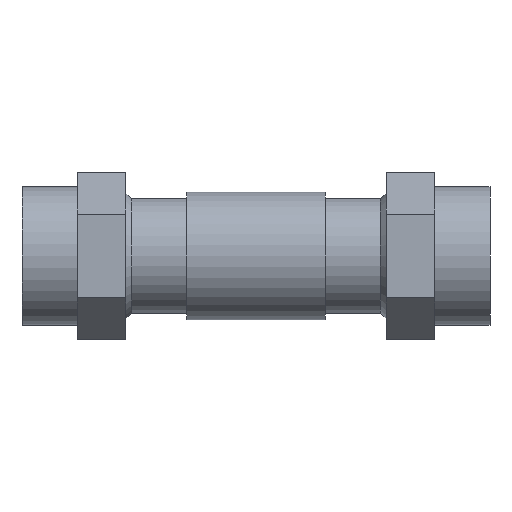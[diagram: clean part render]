
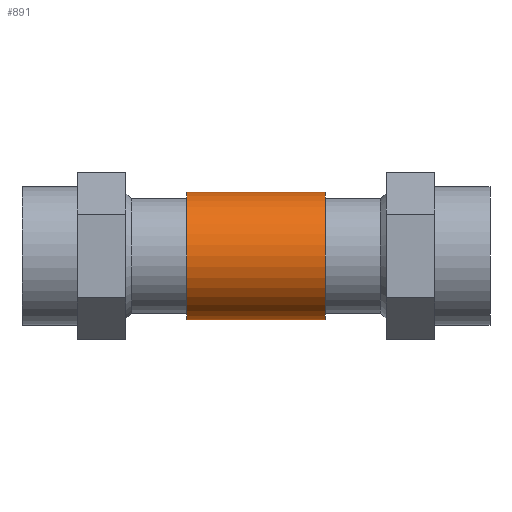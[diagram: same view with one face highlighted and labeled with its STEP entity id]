
A CAD part, front view. The second image highlights one B-rep face of the part: STEP entity #891.
In plain terms, the highlighted cylindrical face has radius 23.47 mm (diameter 46.939 mm), a full revolution.
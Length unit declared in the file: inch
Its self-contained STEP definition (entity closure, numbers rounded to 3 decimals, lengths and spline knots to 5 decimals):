
#48=B_SPLINE_CURVE_WITH_KNOTS('',3,(#1375,#1376,#1377,#1378,#1379,#1380,
#1381,#1382,#1383,#1384,#1385,#1386,#1387,#1388,#1389,#1390,#1391,#1392,
#1393,#1394,#1395,#1396,#1397,#1398,#1399,#1400,#1401,#1402,#1403,#1404,
#1405,#1406,#1407,#1408,#1409,#1410),.UNSPECIFIED.,.F.,.F.,(4,2,2,2,2,2,
2,2,2,2,2,2,2,2,2,2,2,4),(0.,0.25199,0.50397,0.75596,
1.00795,1.48868,1.96942,2.45016,2.93089,
3.18288,3.43487,3.68686,3.93884,4.5754,
5.21195,5.70561,5.95244,6.19928),
 .UNSPECIFIED.);
#49=B_SPLINE_CURVE_WITH_KNOTS('',3,(#1411,#1412,#1413,#1414,#1415,#1416,
#1417,#1418,#1419,#1420,#1421,#1422),.UNSPECIFIED.,.F.,.F.,(4,2,2,2,2,4),
(6.19928,6.44611,6.69294,7.1866,7.82316,
8.45971),.UNSPECIFIED.);
#54=CYLINDRICAL_SURFACE('',#976,0.924);
#67=FACE_BOUND('',#190,.T.);
#88=CIRCLE('',#969,0.924);
#89=CIRCLE('',#970,0.924);
#91=CIRCLE('',#973,0.924);
#92=CIRCLE('',#974,0.924);
#137=FACE_OUTER_BOUND('',#189,.T.);
#189=EDGE_LOOP('',(#641,#642,#643,#644,#645,#646));
#190=EDGE_LOOP('',(#647,#648));
#251=LINE('',#1464,#320);
#320=VECTOR('',#1142,0.924);
#382=VERTEX_POINT('',#1372);
#383=VERTEX_POINT('',#1374);
#392=VERTEX_POINT('',#1450);
#393=VERTEX_POINT('',#1451);
#395=VERTEX_POINT('',#1457);
#396=VERTEX_POINT('',#1458);
#471=EDGE_CURVE('',#383,#382,#48,.T.);
#472=EDGE_CURVE('',#382,#383,#49,.T.);
#485=EDGE_CURVE('',#392,#393,#88,.T.);
#486=EDGE_CURVE('',#393,#392,#89,.T.);
#488=EDGE_CURVE('',#395,#396,#91,.T.);
#489=EDGE_CURVE('',#396,#395,#92,.T.);
#491=EDGE_CURVE('',#393,#396,#251,.T.);
#641=ORIENTED_EDGE('',*,*,#485,.F.);
#642=ORIENTED_EDGE('',*,*,#486,.F.);
#643=ORIENTED_EDGE('',*,*,#491,.T.);
#644=ORIENTED_EDGE('',*,*,#489,.T.);
#645=ORIENTED_EDGE('',*,*,#488,.T.);
#646=ORIENTED_EDGE('',*,*,#491,.F.);
#647=ORIENTED_EDGE('',*,*,#471,.T.);
#648=ORIENTED_EDGE('',*,*,#472,.T.);
#891=ADVANCED_FACE('',(#137,#67),#54,.T.);
#969=AXIS2_PLACEMENT_3D('',#1452,#1126,#1127);
#970=AXIS2_PLACEMENT_3D('',#1453,#1128,#1129);
#973=AXIS2_PLACEMENT_3D('',#1459,#1134,#1135);
#974=AXIS2_PLACEMENT_3D('',#1460,#1136,#1137);
#976=AXIS2_PLACEMENT_3D('',#1463,#1140,#1141);
#1126=DIRECTION('center_axis',(1.,0.,0.));
#1127=DIRECTION('ref_axis',(0.,0.,-1.));
#1128=DIRECTION('center_axis',(1.,0.,0.));
#1129=DIRECTION('ref_axis',(0.,0.,-1.));
#1134=DIRECTION('center_axis',(1.,0.,0.));
#1135=DIRECTION('ref_axis',(0.,0.,-1.));
#1136=DIRECTION('center_axis',(1.,0.,0.));
#1137=DIRECTION('ref_axis',(0.,0.,-1.));
#1140=DIRECTION('center_axis',(1.,0.,0.));
#1141=DIRECTION('ref_axis',(0.,1.,0.));
#1142=DIRECTION('',(-1.,0.,0.));
#1372=CARTESIAN_POINT('',(0.86082,0.924,0.));
#1374=CARTESIAN_POINT('',(0.19862,0.77703,0.5));
#1375=CARTESIAN_POINT('Ctrl Pts',(0.19862,0.77703,0.5));
#1376=CARTESIAN_POINT('Ctrl Pts',(0.16555,0.77703,0.5));
#1377=CARTESIAN_POINT('Ctrl Pts',(0.13127,0.77866,0.4975));
#1378=CARTESIAN_POINT('Ctrl Pts',(0.06346,0.78586,
0.48605));
#1379=CARTESIAN_POINT('Ctrl Pts',(0.02992,0.79143,0.47709));
#1380=CARTESIAN_POINT('Ctrl Pts',(-0.03358,0.80578,
0.45243));
#1381=CARTESIAN_POINT('Ctrl Pts',(-0.06365,0.81457,
0.43668));
#1382=CARTESIAN_POINT('Ctrl Pts',(-0.11835,0.83349,
0.39938));
#1383=CARTESIAN_POINT('Ctrl Pts',(-0.143,0.84359,
0.37784));
#1384=CARTESIAN_POINT('Ctrl Pts',(-0.20532,0.8717,
0.31021));
#1385=CARTESIAN_POINT('Ctrl Pts',(-0.23911,0.89067,0.2539));
#1386=CARTESIAN_POINT('Ctrl Pts',(-0.28332,0.91694,0.13034));
#1387=CARTESIAN_POINT('Ctrl Pts',(-0.29388,0.924,0.06309));
#1388=CARTESIAN_POINT('Ctrl Pts',(-0.29388,0.924,-0.06309));
#1389=CARTESIAN_POINT('Ctrl Pts',(-0.28332,0.91694,-0.13034));
#1390=CARTESIAN_POINT('Ctrl Pts',(-0.23911,0.89067,-0.2539));
#1391=CARTESIAN_POINT('Ctrl Pts',(-0.20532,0.8717,
-0.31021));
#1392=CARTESIAN_POINT('Ctrl Pts',(-0.143,0.84359,
-0.37784));
#1393=CARTESIAN_POINT('Ctrl Pts',(-0.11835,0.83349,
-0.39938));
#1394=CARTESIAN_POINT('Ctrl Pts',(-0.06365,0.81457,
-0.43668));
#1395=CARTESIAN_POINT('Ctrl Pts',(-0.03358,0.80578,
-0.45243));
#1396=CARTESIAN_POINT('Ctrl Pts',(0.02992,0.79143,
-0.47709));
#1397=CARTESIAN_POINT('Ctrl Pts',(0.06346,0.78586,
-0.48605));
#1398=CARTESIAN_POINT('Ctrl Pts',(0.13127,0.77866,-0.4975));
#1399=CARTESIAN_POINT('Ctrl Pts',(0.16555,0.77703,-0.5));
#1400=CARTESIAN_POINT('Ctrl Pts',(0.28216,0.77703,-0.5));
#1401=CARTESIAN_POINT('Ctrl Pts',(0.37021,0.78773,-0.4841));
#1402=CARTESIAN_POINT('Ctrl Pts',(0.53583,0.82042,-0.42637));
#1403=CARTESIAN_POINT('Ctrl Pts',(0.61345,0.84196,-0.38446));
#1404=CARTESIAN_POINT('Ctrl Pts',(0.7264,0.87671,-0.29483));
#1405=CARTESIAN_POINT('Ctrl Pts',(0.77399,0.89291,-0.24481));
#1406=CARTESIAN_POINT('Ctrl Pts',(0.82451,0.91075,-0.15864));
#1407=CARTESIAN_POINT('Ctrl Pts',(0.83797,0.91563,-0.12805));
#1408=CARTESIAN_POINT('Ctrl Pts',(0.85613,0.92226,-0.06493));
#1409=CARTESIAN_POINT('Ctrl Pts',(0.86082,0.924,-0.03239));
#1410=CARTESIAN_POINT('Ctrl Pts',(0.86082,0.924,0.));
#1411=CARTESIAN_POINT('Ctrl Pts',(0.86082,0.924,0.));
#1412=CARTESIAN_POINT('Ctrl Pts',(0.86082,0.924,0.03239));
#1413=CARTESIAN_POINT('Ctrl Pts',(0.85613,0.92226,0.06493));
#1414=CARTESIAN_POINT('Ctrl Pts',(0.83797,0.91563,0.12805));
#1415=CARTESIAN_POINT('Ctrl Pts',(0.82451,0.91075,0.15864));
#1416=CARTESIAN_POINT('Ctrl Pts',(0.77399,0.89291,0.24481));
#1417=CARTESIAN_POINT('Ctrl Pts',(0.7264,0.87671,0.29483));
#1418=CARTESIAN_POINT('Ctrl Pts',(0.61345,0.84196,0.38446));
#1419=CARTESIAN_POINT('Ctrl Pts',(0.53583,0.82042,0.42637));
#1420=CARTESIAN_POINT('Ctrl Pts',(0.37021,0.78773,0.4841));
#1421=CARTESIAN_POINT('Ctrl Pts',(0.28216,0.77703,0.5));
#1422=CARTESIAN_POINT('Ctrl Pts',(0.19862,0.77703,0.5));
#1450=CARTESIAN_POINT('',(1.,0.924,0.));
#1451=CARTESIAN_POINT('',(1.,-0.924,0.));
#1452=CARTESIAN_POINT('Origin',(1.,0.,0.));
#1453=CARTESIAN_POINT('Origin',(1.,0.,0.));
#1457=CARTESIAN_POINT('',(-1.,0.924,0.));
#1458=CARTESIAN_POINT('',(-1.,-0.924,0.));
#1459=CARTESIAN_POINT('Origin',(-1.,0.,0.));
#1460=CARTESIAN_POINT('Origin',(-1.,0.,0.));
#1463=CARTESIAN_POINT('Origin',(0.,0.,0.));
#1464=CARTESIAN_POINT('',(0.,-0.924,0.));
